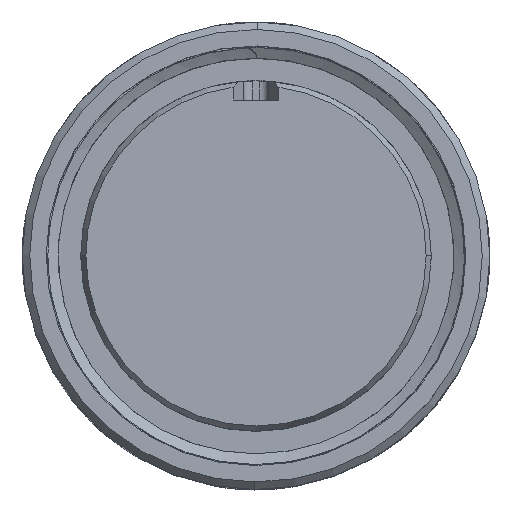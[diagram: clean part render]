
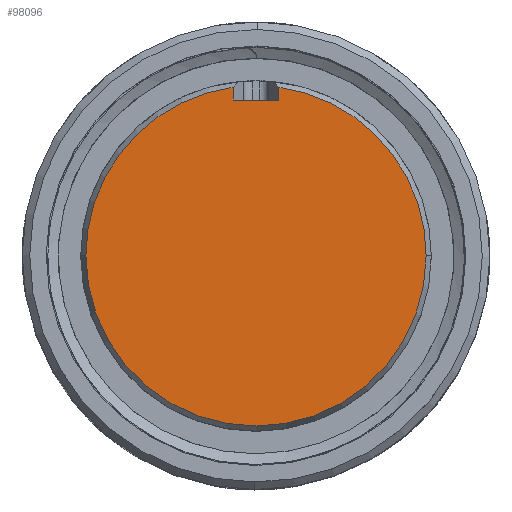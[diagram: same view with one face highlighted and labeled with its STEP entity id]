
A CAD part, top view. The second image highlights one B-rep face of the part: STEP entity #98096.
In plain terms, the highlighted planar face has unit normal (0, 0, 1).
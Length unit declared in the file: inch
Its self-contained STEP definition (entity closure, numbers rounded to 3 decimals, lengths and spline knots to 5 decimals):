
#1876 = VERTEX_POINT ( 'NONE', #66199 ) ;
#2547 = VECTOR ( 'NONE', #98581, 39.37008 ) ;
#3715 = PLANE ( 'NONE',  #79049 ) ;
#6875 = DIRECTION ( 'NONE',  ( 1., 0., 0. ) ) ;
#11111 = AXIS2_PLACEMENT_3D ( 'NONE', #100620, #50253, #58286 ) ;
#13216 = LINE ( 'NONE', #85533, #82593 ) ;
#13307 = DIRECTION ( 'NONE',  ( 0., 0., 1. ) ) ;
#13350 = FACE_OUTER_BOUND ( 'NONE', #67735, .T. ) ;
#13902 = LINE ( 'NONE', #87280, #63808 ) ;
#13978 = ORIENTED_EDGE ( 'NONE', *, *, #74517, .T. ) ;
#15853 = CIRCLE ( 'NONE', #36378, 0.56768 ) ;
#17384 = ORIENTED_EDGE ( 'NONE', *, *, #30118, .F. ) ;
#19827 = CARTESIAN_POINT ( 'NONE',  ( 0., 0., 1.004 ) ) ;
#21255 = DIRECTION ( 'NONE',  ( 1., 0., 0. ) ) ;
#23334 = VERTEX_POINT ( 'NONE', #59293 ) ;
#29630 = CIRCLE ( 'NONE', #92886, 0.56768 ) ;
#30118 = EDGE_CURVE ( 'NONE', #23334, #73869, #97524, .T. ) ;
#33074 = ORIENTED_EDGE ( 'NONE', *, *, #78426, .T. ) ;
#35922 = CARTESIAN_POINT ( 'NONE',  ( 0.07664, 0.56248, 1.004 ) ) ;
#36378 = AXIS2_PLACEMENT_3D ( 'NONE', #86153, #13307, #69543 ) ;
#36571 = EDGE_CURVE ( 'NONE', #66930, #85417, #40153, .T. ) ;
#37807 = ORIENTED_EDGE ( 'NONE', *, *, #79345, .T. ) ;
#37982 = DIRECTION ( 'NONE',  ( -1., 0., 0. ) ) ;
#40153 = CIRCLE ( 'NONE', #11111, 0.56768 ) ;
#50253 = DIRECTION ( 'NONE',  ( 0., 0., 1. ) ) ;
#56463 = CARTESIAN_POINT ( 'NONE',  ( -0.56768, 0., 1.004 ) ) ;
#58286 = DIRECTION ( 'NONE',  ( 1., 0., 0. ) ) ;
#58380 = CARTESIAN_POINT ( 'NONE',  ( -0.07664, 0.655, 1.004 ) ) ;
#58981 = VERTEX_POINT ( 'NONE', #35922 ) ;
#59293 = CARTESIAN_POINT ( 'NONE',  ( -0.07664, 0.56248, 1.004 ) ) ;
#60150 = DIRECTION ( 'NONE',  ( 0., -1., 0. ) ) ;
#63244 = ORIENTED_EDGE ( 'NONE', *, *, #78182, .F. ) ;
#63808 = VECTOR ( 'NONE', #60150, 39.37008 ) ;
#65570 = CARTESIAN_POINT ( 'NONE',  ( -0.07664, 0.52, 1.004 ) ) ;
#66199 = CARTESIAN_POINT ( 'NONE',  ( 0.07664, 0.52, 1.004 ) ) ;
#66930 = VERTEX_POINT ( 'NONE', #56463 ) ;
#67735 = EDGE_LOOP ( 'NONE', ( #17384, #13978, #85002, #33074, #37807, #63244 ) ) ;
#69543 = DIRECTION ( 'NONE',  ( 1., 0., 0. ) ) ;
#73869 = VERTEX_POINT ( 'NONE', #65570 ) ;
#74517 = EDGE_CURVE ( 'NONE', #23334, #66930, #15853, .T. ) ;
#78182 = EDGE_CURVE ( 'NONE', #73869, #1876, #13216, .T. ) ;
#78426 = EDGE_CURVE ( 'NONE', #85417, #58981, #29630, .T. ) ;
#79049 = AXIS2_PLACEMENT_3D ( 'NONE', #19827, #93196, #37982 ) ;
#79345 = EDGE_CURVE ( 'NONE', #58981, #1876, #13902, .T. ) ;
#81863 = CARTESIAN_POINT ( 'NONE',  ( 0.56768, 0., 1.004 ) ) ;
#82593 = VECTOR ( 'NONE', #21255, 39.37008 ) ;
#85002 = ORIENTED_EDGE ( 'NONE', *, *, #36571, .T. ) ;
#85417 = VERTEX_POINT ( 'NONE', #81863 ) ;
#85533 = CARTESIAN_POINT ( 'NONE',  ( -0.042, 0.52, 1.004 ) ) ;
#86153 = CARTESIAN_POINT ( 'NONE',  ( 0., 0., 1.004 ) ) ;
#87280 = CARTESIAN_POINT ( 'NONE',  ( 0.07664, 0.655, 1.004 ) ) ;
#92886 = AXIS2_PLACEMENT_3D ( 'NONE', #104918, #96873, #6875 ) ;
#93196 = DIRECTION ( 'NONE',  ( 0., 0., -1. ) ) ;
#96873 = DIRECTION ( 'NONE',  ( 0., 0., 1. ) ) ;
#97524 = LINE ( 'NONE', #58380, #2547 ) ;
#98096 = ADVANCED_FACE ( 'NONE', ( #13350 ), #3715, .F. ) ;
#98581 = DIRECTION ( 'NONE',  ( 0., -1., 0. ) ) ;
#100620 = CARTESIAN_POINT ( 'NONE',  ( 0., 0., 1.004 ) ) ;
#104918 = CARTESIAN_POINT ( 'NONE',  ( 0., 0., 1.004 ) ) ;
